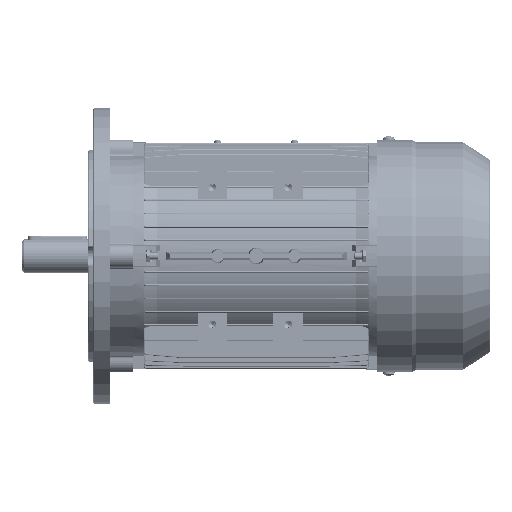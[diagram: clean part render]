
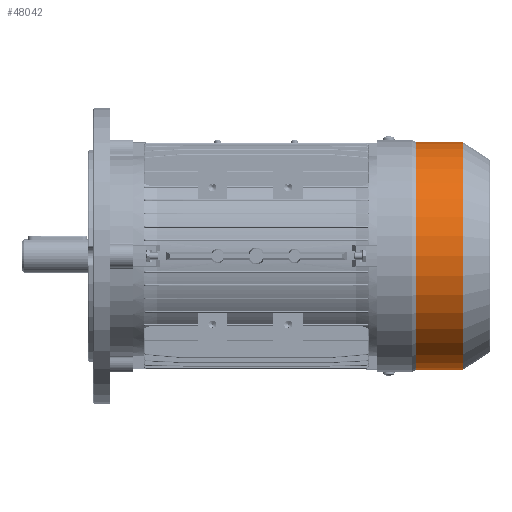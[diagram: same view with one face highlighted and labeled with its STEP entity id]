
A CAD part, front view. The second image highlights one B-rep face of the part: STEP entity #48042.
In plain terms, the highlighted cylindrical face has radius 96.2 mm (diameter 192.4 mm), a partial arc.
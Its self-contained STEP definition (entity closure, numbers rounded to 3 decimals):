
#21717 = CARTESIAN_POINT ( 'NONE',  ( 102.5, 0., 0. ) ) ;
#22873 = FACE_OUTER_BOUND ( 'NONE', #155178, .T. ) ;
#26983 = CARTESIAN_POINT ( 'NONE',  ( 102.5, 0., -96.2 ) ) ;
#27137 = ORIENTED_EDGE ( 'NONE', *, *, #178659, .T. ) ;
#30288 = CARTESIAN_POINT ( 'NONE',  ( 174.761, 0., -96.2 ) ) ;
#40237 = DIRECTION ( 'NONE',  ( 0., 0., -1. ) ) ;
#46071 = VECTOR ( 'NONE', #204982, 1000. ) ;
#47249 = VERTEX_POINT ( 'NONE', #90175 ) ;
#47853 = ORIENTED_EDGE ( 'NONE', *, *, #93865, .F. ) ;
#48042 = ADVANCED_FACE ( 'NONE', ( #22873 ), #93914, .T. ) ;
#78262 = LINE ( 'NONE', #26983, #46071 ) ;
#78604 = CARTESIAN_POINT ( 'NONE',  ( 134.935, 0., 96.2 ) ) ;
#83639 = CARTESIAN_POINT ( 'NONE',  ( 102.5, 0., 96.2 ) ) ;
#85555 = VECTOR ( 'NONE', #101106, 1000. ) ;
#87358 = CARTESIAN_POINT ( 'NONE',  ( 174.761, 0., 0. ) ) ;
#88475 = CIRCLE ( 'NONE', #218481, 96.2 ) ;
#88952 = AXIS2_PLACEMENT_3D ( 'NONE', #21717, #145093, #167103 ) ;
#90175 = CARTESIAN_POINT ( 'NONE',  ( 134.935, 0., -96.2 ) ) ;
#93672 = CIRCLE ( 'NONE', #223667, 96.2 ) ;
#93865 = EDGE_CURVE ( 'NONE', #47249, #114876, #93672, .T. ) ;
#93914 = CYLINDRICAL_SURFACE ( 'NONE', #88952, 96.2 ) ;
#101106 = DIRECTION ( 'NONE',  ( -1., 0., 0. ) ) ;
#101835 = VERTEX_POINT ( 'NONE', #30288 ) ;
#113543 = CARTESIAN_POINT ( 'NONE',  ( 134.935, 0., 0. ) ) ;
#114876 = VERTEX_POINT ( 'NONE', #78604 ) ;
#125711 = DIRECTION ( 'NONE',  ( 0., 0., -1. ) ) ;
#126867 = DIRECTION ( 'NONE',  ( -1., 0., 0. ) ) ;
#127566 = DIRECTION ( 'NONE',  ( -1., 0., 0. ) ) ;
#137316 = EDGE_CURVE ( 'NONE', #101835, #47249, #78262, .T. ) ;
#144872 = ORIENTED_EDGE ( 'NONE', *, *, #137316, .F. ) ;
#145093 = DIRECTION ( 'NONE',  ( -1., 0., 0. ) ) ;
#155178 = EDGE_LOOP ( 'NONE', ( #230360, #27137, #47853, #144872 ) ) ;
#167103 = DIRECTION ( 'NONE',  ( 0., 0., -1. ) ) ;
#178659 = EDGE_CURVE ( 'NONE', #185712, #114876, #191755, .T. ) ;
#185712 = VERTEX_POINT ( 'NONE', #203482 ) ;
#186686 = EDGE_CURVE ( 'NONE', #101835, #185712, #88475, .T. ) ;
#191755 = LINE ( 'NONE', #83639, #85555 ) ;
#203482 = CARTESIAN_POINT ( 'NONE',  ( 174.761, 0., 96.2 ) ) ;
#204982 = DIRECTION ( 'NONE',  ( -1., 0., 0. ) ) ;
#218481 = AXIS2_PLACEMENT_3D ( 'NONE', #87358, #126867, #125711 ) ;
#223667 = AXIS2_PLACEMENT_3D ( 'NONE', #113543, #127566, #40237 ) ;
#230360 = ORIENTED_EDGE ( 'NONE', *, *, #186686, .T. ) ;
